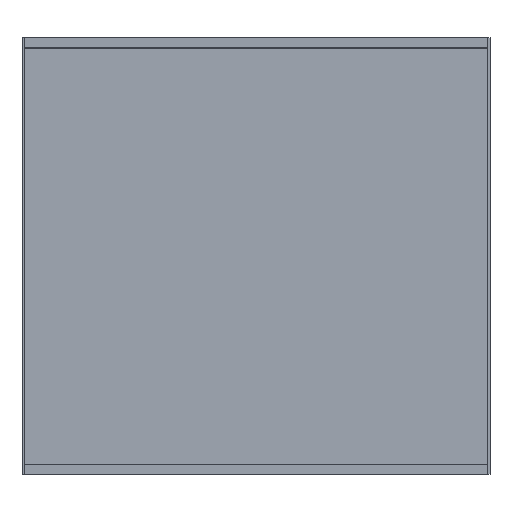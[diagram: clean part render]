
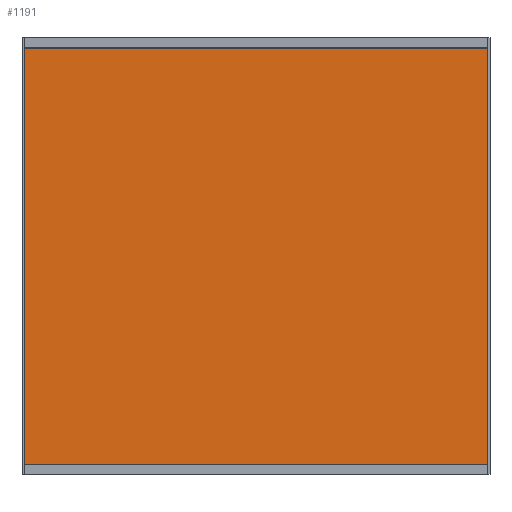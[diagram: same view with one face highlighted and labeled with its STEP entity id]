
A CAD part, front view. The second image highlights one B-rep face of the part: STEP entity #1191.
In plain terms, the highlighted planar face has unit normal (0, -1, 0).
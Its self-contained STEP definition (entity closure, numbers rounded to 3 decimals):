
#66=PLANE('',#1293);
#129=FACE_OUTER_BOUND('',#199,.T.);
#199=EDGE_LOOP('',(#1006,#1007,#1008,#1009));
#319=LINE('',#1857,#457);
#322=LINE('',#1863,#460);
#323=LINE('',#1865,#461);
#324=LINE('',#1866,#462);
#457=VECTOR('',#1539,10.);
#460=VECTOR('',#1544,10.);
#461=VECTOR('',#1545,10.);
#462=VECTOR('',#1546,10.);
#589=VERTEX_POINT('',#1854);
#590=VERTEX_POINT('',#1856);
#592=VERTEX_POINT('',#1862);
#593=VERTEX_POINT('',#1864);
#731=EDGE_CURVE('',#589,#590,#319,.T.);
#734=EDGE_CURVE('',#592,#589,#322,.T.);
#735=EDGE_CURVE('',#593,#592,#323,.T.);
#736=EDGE_CURVE('',#590,#593,#324,.T.);
#1006=ORIENTED_EDGE('',*,*,#734,.F.);
#1007=ORIENTED_EDGE('',*,*,#735,.F.);
#1008=ORIENTED_EDGE('',*,*,#736,.F.);
#1009=ORIENTED_EDGE('',*,*,#731,.F.);
#1191=ADVANCED_FACE('',(#129),#66,.T.);
#1293=AXIS2_PLACEMENT_3D('',#1861,#1542,#1543);
#1539=DIRECTION('',(0.,0.,1.));
#1542=DIRECTION('center_axis',(0.,-1.,0.));
#1543=DIRECTION('ref_axis',(0.,0.,-1.));
#1544=DIRECTION('',(-1.,0.,0.));
#1545=DIRECTION('',(0.,0.,-1.));
#1546=DIRECTION('',(1.,0.,0.));
#1854=CARTESIAN_POINT('',(-373.,-30.75,16.));
#1856=CARTESIAN_POINT('',(-373.,-30.75,683.));
#1857=CARTESIAN_POINT('',(-373.,-30.75,683.));
#1861=CARTESIAN_POINT('Origin',(0.,-30.75,683.));
#1862=CARTESIAN_POINT('',(373.,-30.75,16.));
#1863=CARTESIAN_POINT('',(0.,-30.75,16.));
#1864=CARTESIAN_POINT('',(373.,-30.75,683.));
#1865=CARTESIAN_POINT('',(373.,-30.75,683.));
#1866=CARTESIAN_POINT('',(0.,-30.75,683.));
